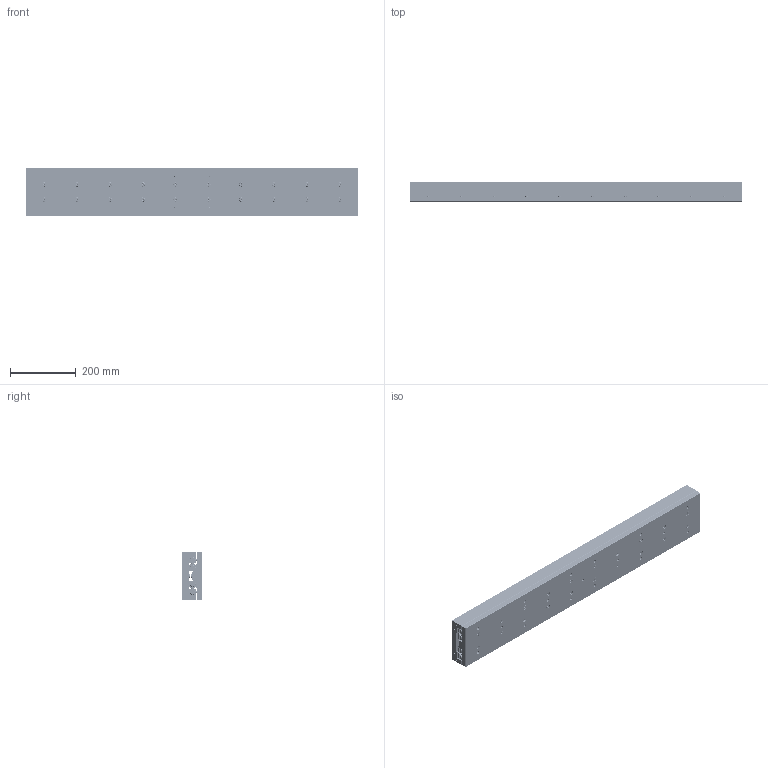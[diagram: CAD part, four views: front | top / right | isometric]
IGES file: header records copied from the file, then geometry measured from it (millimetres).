
Start section: SolidWorks IGES file using analytic representation for surfaces
Global section: file name: C:\Documents and Settings\IanO.IANOHOME\My Documents\Wix and Auto CAD Work\CAD Models\Parametric Models\Auto Models\L1020\L1020_IGES\L1020.145-1010.igs; native system: SolidWorks 2009; preprocessor: SolidWorks 2009; author: IanO; date: 110922.163515; units: millimetre
Bounding box: 1010 x 60 x 145 mm (x, y, z)
Surface area: 1355003.7 mm2 (no closed solid volume)
Topology: 0 solids, 0 shells, 3380 faces, 51128 edges, 51028 vertices
Faces by surface type: bspline 2112, revolution 1268
